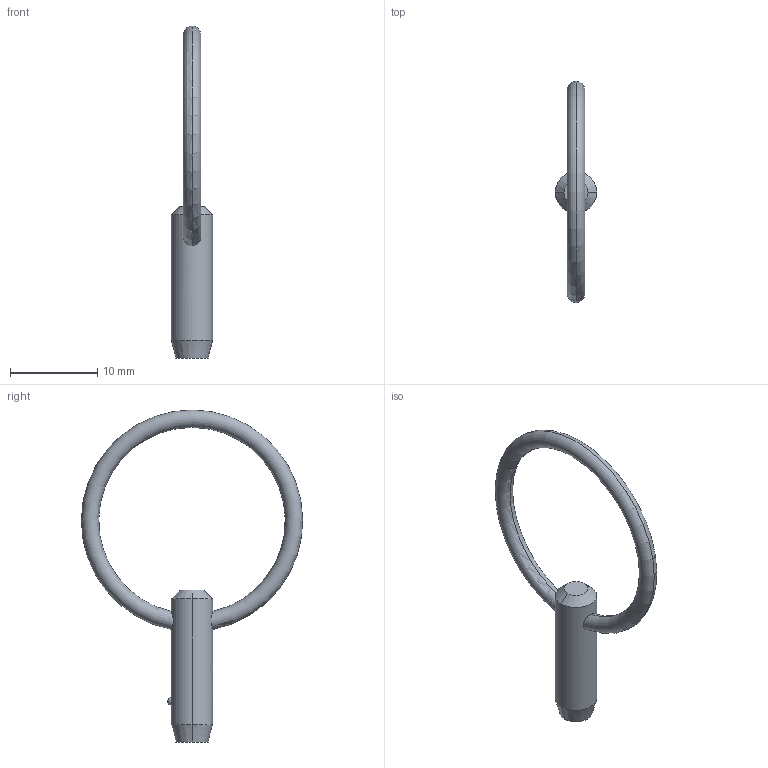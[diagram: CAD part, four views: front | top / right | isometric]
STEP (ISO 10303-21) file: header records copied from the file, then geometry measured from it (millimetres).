
FILE_DESCRIPTION (( 'STEP AP203' ), '1' );
FILE_NAME ('P1250.018-030.step', '2019-07-29T19:29:01', ( '' ), ( '' ), 'SwSTEP 2.0', 'SolidWorks 2017', '' );
FILE_SCHEMA (( 'CONFIG_CONTROL_DESIGN' ));
Length unit declared in the file: millimetre
Products named in the file (1): P1250.018-030
Bounding box: 4.76 x 25.4 x 38.1 mm (x, y, z)
Volume: 512.9 mm3; surface area: 704 mm2
Topology: 1 solids, 1 shells, 12 faces, 28 edges, 17 vertices
Faces by surface type: cone 4, torus 2, sphere 2, cylinder 2, plane 2
Entity records: 471 total; most frequent: CARTESIAN_POINT 138, DIRECTION 56, ORIENTED_EDGE 48, AXIS2_PLACEMENT_3D 25, EDGE_CURVE 24, VERTEX_POINT 15, EDGE_LOOP 15, ADVANCED_FACE 12
